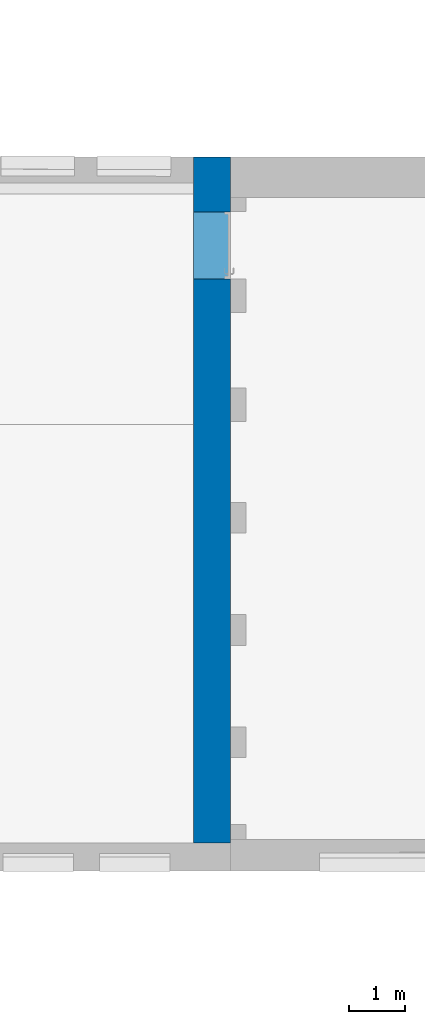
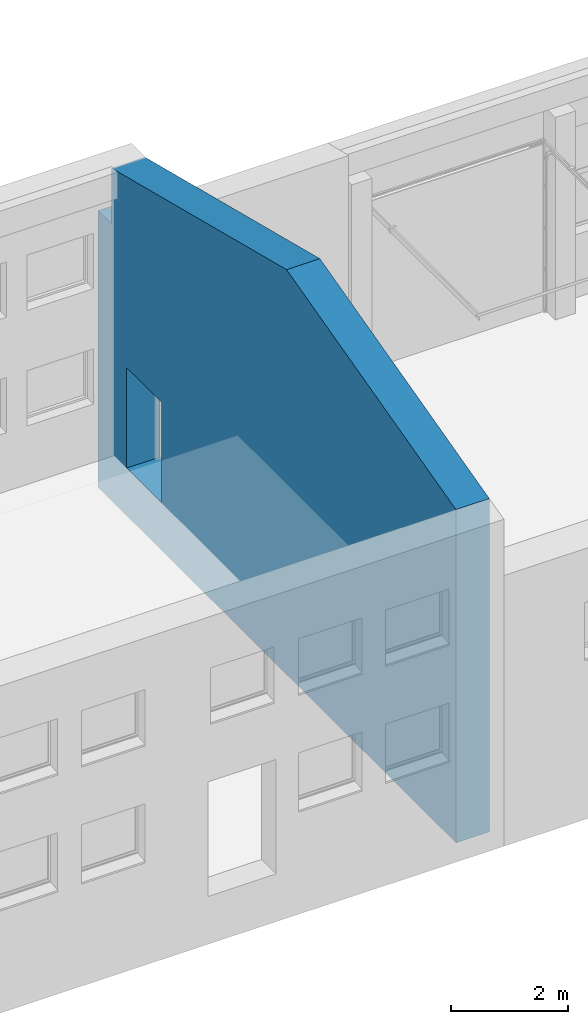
# One storey, part 159 of 301: 1 wall, 1 opening.
"""IFC2X3 building model written with IfcOpenShell, lengths in millimetres."""

from ifc_helpers import new_model, entity, si_unit, converted_unit, derived_unit, money_unit, direction, frame, origin_with_axes, place, context, subcontext, project, spatial, faceted_brep, material, type_object, element, save


model = new_model("IFC2X3")

# Units and contexts
model_context = context("Model", 3, precision=0.01, world=origin_with_axes(), true_north=direction((0.0, 1.0)))
body_context = subcontext(model_context, "Body", "Model", "MODEL_VIEW")
ifc_project = project(units=[si_unit("LENGTHUNIT", "METRE", prefix="MILLI"), si_unit("AREAUNIT", "SQUARE_METRE"), si_unit("VOLUMEUNIT", "CUBIC_METRE"), converted_unit("PLANEANGLEUNIT", "DEGREE", entity("IfcPlaneAngleMeasure", 0.0174532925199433), si_unit("PLANEANGLEUNIT", "RADIAN"), dimensions=[0, 0, 0, 0, 0, 0, 0]), money_unit("EUR"), converted_unit("TIMEUNIT", "Year", entity("IfcTimeMeasure", 31557600.0), si_unit("TIMEUNIT", "SECOND"), dimensions=[0, 0, 1, 0, 0, 0, 0]), si_unit("MASSUNIT", "GRAM", prefix="KILO"), si_unit("THERMODYNAMICTEMPERATUREUNIT", "DEGREE_CELSIUS"), si_unit("LUMINOUSINTENSITYUNIT", "LUMEN"), si_unit("ENERGYUNIT", "JOULE", prefix="MEGA"), derived_unit("THERMALCONDUCTANCEUNIT", [(si_unit("POWERUNIT", "WATT"), 1), (si_unit("LENGTHUNIT", "METRE"), -1), (si_unit("THERMODYNAMICTEMPERATUREUNIT", "KELVIN"), -1)]), derived_unit("SPECIFICHEATCAPACITYUNIT", [(si_unit("ENERGYUNIT", "JOULE"), 1), (si_unit("MASSUNIT", "GRAM", prefix="KILO"), -1), (si_unit("THERMODYNAMICTEMPERATUREUNIT", "KELVIN"), -1)]), derived_unit("MASSDENSITYUNIT", [(si_unit("MASSUNIT", "GRAM", prefix="KILO"), 1), (si_unit("VOLUMEUNIT", "CUBIC_METRE"), -1)])], contexts=[model_context])

# Site, building, storey
site_placement = place(None, frame((0.0, 0.0, 8650.0), z_axis=(0.0, 0.0, 1.0), x_axis=(1.0, 0.0, 0.0)))
site = spatial("IfcSite", under=ifc_project, at=site_placement, Name="43301:001:0844", CompositionType="ELEMENT")
building_placement = place(site_placement, origin_with_axes())
building = spatial("IfcBuilding", under=site, at=building_placement, Name="Kuressaare Ametikooli tuulikute mehaanikute õppekorpus", CompositionType="ELEMENT")
storey_placement = place(building_placement, origin_with_axes())
storey = spatial("IfcBuildingStorey", under=building, at=storey_placement, Name="1.korrus", CompositionType="ELEMENT", Elevation=0.0)

# Wall, opening
ifc_material = material(Name="GENEERILINE - KONSTRUKTRIOON")
wall_type = type_object("IfcWallType", Name="GENEERILINE - KONSTRUKTRIOON 660", PredefinedType="NOTDEFINED")
wall_placement = place(storey_placement, frame((151593.620300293, 26292.98866271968, -1000.0), z_axis=(0.0, 0.0, 1.0), x_axis=(0.0, -1.0, 0.0)))
wall = element("IfcWall", 1, at=wall_placement, inside=storey, type_object=wall_type, material=ifc_material, Name="SS-XX", context=body_context, shape_type="Brep", body=[
    faceted_brep([(460.0000000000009, 0.0, 6966.058717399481), (460.0000000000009, 659.9999999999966, 6966.058717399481), (460.0000000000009, 659.9999999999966, 5800.0), (460.0000000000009, 0.0, 5800.0), (6464.602875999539, 659.9999999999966, 8480.502745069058), (6464.60287764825, 0.0, 8480.50274464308), (12275.33094581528, 659.9999999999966, 6979.184994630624), (12275.33094581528, 659.9999999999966, 0.0), (0.0, 659.9999999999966, 0.0), (0.0, 659.9999999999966, 5800.0), (979.1782371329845, 659.9999999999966, 1000.0), (2179.178237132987, 659.9999999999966, 1000.0), (2179.178237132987, 659.9999999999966, 3100.0), (979.1782371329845, 659.9999999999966, 3100.0), (0.0, 0.0, 5800.0), (0.0, 0.0, 0.0), (12275.33094581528, 0.0, 0.0), (12275.33094581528, 0.0, 6979.184994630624), (2179.178237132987, 0.0, 3100.0), (2179.178237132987, 0.0, 1000.0), (979.1782371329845, 0.0, 1000.0), (979.1782371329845, 0.0, 3100.0)], [[[0, 1, 2, 3]], [[4, 1, 0, 5]], [[4, 6, 7, 8, 9, 2, 1], [10, 11, 12, 13]], [[3, 2, 9, 14]], [[5, 0, 3, 14, 15, 16, 17], [18, 19, 20, 21]], [[6, 4, 5, 17]], [[6, 17, 16, 7]], [[8, 7, 16, 15]], [[15, 14, 9, 8]], [[19, 11, 10, 20]], [[18, 12, 11, 19]], [[21, 13, 12, 18]], [[20, 10, 13, 21]]]),
])
opening_placement = place(wall_placement, frame((1579.178237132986, 0.0, 1000.0), z_axis=(0.0, 0.0, 1.0), x_axis=(1.0, 0.0, 0.0)))
element("IfcOpeningElement", 2, at=opening_placement, cuts=wall, context=body_context, shape_type="Brep", body=[
    faceted_brep([(-600.0000000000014, -1.000000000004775, 2100.0), (-600.0000000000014, -1.000000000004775, 0.0), (600.0000000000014, -1.000000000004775, 0.0), (600.0000000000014, -1.000000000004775, 2100.0), (-600.0000000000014, 661.0000000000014, 2100.0), (-600.0000000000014, 661.0000000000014, 0.0), (600.0000000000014, 661.0000000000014, 0.0), (600.0000000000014, 661.0000000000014, 2100.0)], [[[0, 1, 2, 3]], [[4, 5, 1, 0]], [[5, 6, 2, 1]], [[6, 7, 3, 2]], [[7, 4, 0, 3]], [[6, 5, 4, 7]]]),
])

save(model, "model.ifc")
